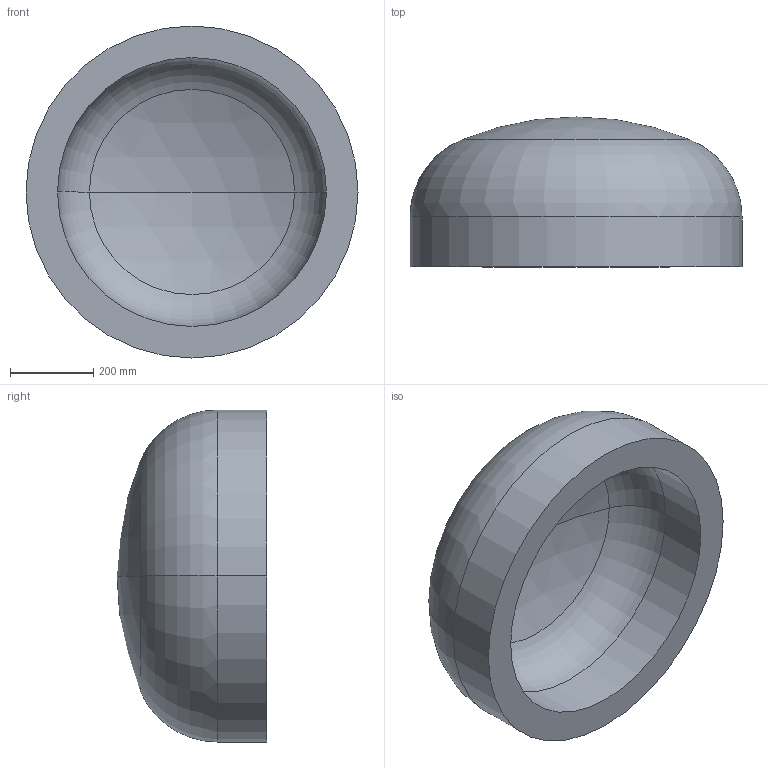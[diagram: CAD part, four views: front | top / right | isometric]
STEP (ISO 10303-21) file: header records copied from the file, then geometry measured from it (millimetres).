
FILE_DESCRIPTION (( 'STEP AP203' ), '1' );
FILE_NAME ('DIN 28013 Korbbogenform_-_Boden DIN 28013 - 800 x 120 - I - s=76.step', '2016-07-01T08:20:44', ( '' ), ( '' ), 'SwSTEP 2.0', 'SolidWorks 2013', '' );
FILE_SCHEMA (( 'CONFIG_CONTROL_DESIGN' ));
Length unit declared in the file: millimetre
Products named in the file (1): DIN 28013 Korbbogenform_-_Boden DIN 28013 - 800 x 120 - I - s=76
Bounding box: 800 x 361 x 800 mm (x, y, z)
Volume: 67910453.4 mm3; surface area: 1972077.2 mm2
Topology: 1 solids, 1 shells, 13 faces, 24 edges, 14 vertices
Faces by surface type: torus 4, cylinder 4, sphere 4, plane 1
Entity records: 407 total; most frequent: DIRECTION 72, CARTESIAN_POINT 52, ORIENTED_EDGE 48, AXIS2_PLACEMENT_3D 34, EDGE_CURVE 24, CIRCLE 20, EDGE_LOOP 14, VERTEX_POINT 14
